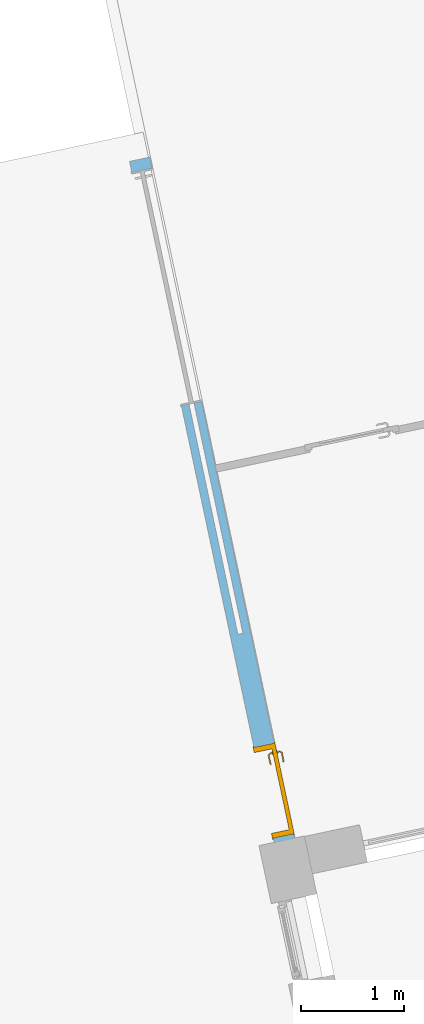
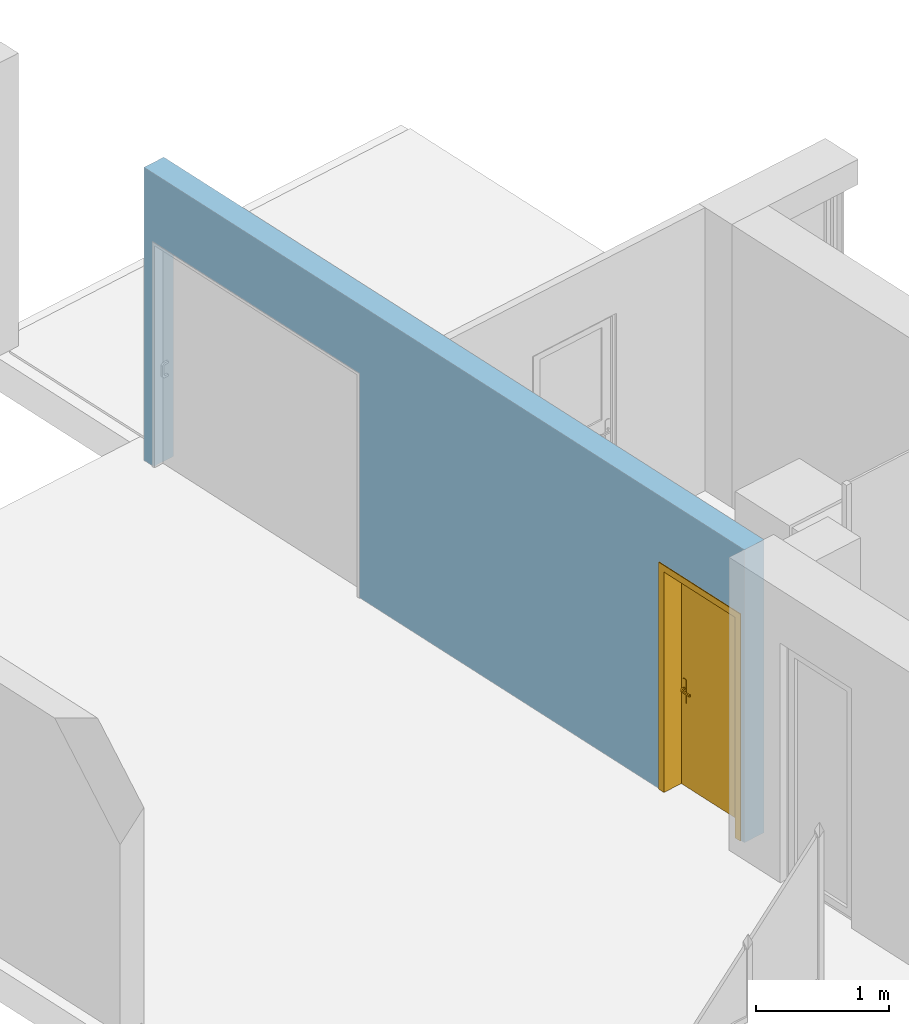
# One storey, part 8 of 17: 1 door, 5 openings, plus 1 element that does not belong to this part.
"""IFC2X3 building model written with IfcOpenShell, lengths in centimetres."""

import ifcopenshell
import ifcopenshell.guid

model = None  # the IFC model being written
_history = None  # IfcOwnerHistory: only IFC2X3 demands one
_inside = {}  # id of a spatial element -> (the spatial element, [elements in it])
_under = {}  # id of a project, library or spatial element -> (it, [spatial elements below it])
_declared = {}  # id of a project -> (the project, [libraries it declares])
_typed = {}  # id of a type object -> (the type object, [elements of that type])
_made_of = {}  # id of a material, layer set ... -> (it, [elements and type objects made of it])


def new_model(schema):
    """Start an empty IFC model of exactly this schema.

    Asked for "IFC4X3", IfcOpenShell would pick the latest addendum, in which some entities
    have other attributes; the version numbers below select the first issue.
    IFC2X3 requires an IfcOwnerHistory on every rooted entity: one is made here for all.
    """
    global model, _history
    if schema == "IFC4X3":
        model = ifcopenshell.file(schema_version=(4, 3, 0, 0))
    else:
        model = ifcopenshell.file(schema=schema)
    _inside.clear()
    _under.clear()
    _declared.clear()
    _typed.clear()
    _made_of.clear()
    _history = None
    if model.schema == "IFC2X3":
        org = make("IfcOrganization", Name="unknown")
        user = make(
            "IfcPersonAndOrganization",
            ThePerson=make("IfcPerson", FamilyName="unknown"),
            TheOrganization=org,
        )
        app = make(
            "IfcApplication",
            ApplicationDeveloper=org,
            Version="unknown",
            ApplicationFullName="unknown",
            ApplicationIdentifier="unknown",
        )
        _history = make(
            "IfcOwnerHistory",
            OwningUser=user,
            OwningApplication=app,
            ChangeAction="ADDED",
            CreationDate=0,
        )
    return model


def make(cls, **values):
    """One entity of the class cls with the attributes given. An attribute that is None is left unset."""
    return model.create_entity(
        cls, **{name: value for name, value in values.items() if value is not None}
    )


def entity(cls, *values):
    """Any entity or typed value of the class cls, its attributes in the order of the schema. None: left unset."""
    e = model.create_entity(cls)
    for i, value in enumerate(values):
        if value is not None:
            e[i] = value
    return e


def rooted(cls, **values):
    """An entity with a GlobalId (a new one), such as an element, a storey or a relation."""
    return make(cls, GlobalId=ifcopenshell.guid.new(), OwnerHistory=_history, **values)


def si_unit(unit_type, name, prefix=None):
    """IfcSIUnit, for example si_unit("LENGTHUNIT", "METRE", prefix="MILLI")."""
    return make("IfcSIUnit", UnitType=unit_type, Prefix=prefix, Name=name)


def converted_unit(unit_type, name, factor, base, dimensions=None, offset=None):
    """IfcConversionBasedUnit, such as the inch: factor (a typed value) times the base unit."""
    return make(
        "IfcConversionBasedUnit"
        if offset is None
        else "IfcConversionBasedUnitWithOffset",
        ConversionOffset=offset,
        Dimensions=None
        if dimensions is None
        else entity("IfcDimensionalExponents", *dimensions),
        UnitType=unit_type,
        Name=name,
        ConversionFactor=make(
            "IfcMeasureWithUnit", ValueComponent=factor, UnitComponent=base
        ),
    )


def derived_unit(unit_type, elements):
    """IfcDerivedUnit: a product of units, each with its exponent."""
    return make(
        "IfcDerivedUnit",
        Elements=[
            make("IfcDerivedUnitElement", Unit=unit, Exponent=power)
            for unit, power in elements
        ],
        UnitType=unit_type,
    )


def assignment(units):
    """IfcUnitAssignment: the units of a project."""
    return None if units is None else make("IfcUnitAssignment", Units=units)


def point(xyz):
    """IfcCartesianPoint."""
    return None if xyz is None else make("IfcCartesianPoint", Coordinates=xyz)


def direction(xyz):
    """IfcDirection."""
    return None if xyz is None else make("IfcDirection", DirectionRatios=xyz)


def frame(location, z_axis=None, x_axis=None):
    """IfcAxis2Placement3D, a coordinate frame: its origin and axes. An axis left out is left unset."""
    return make(
        "IfcAxis2Placement3D",
        Location=point(location),
        Axis=direction(z_axis),
        RefDirection=direction(x_axis),
    )


def frame_2d(location, x_axis=None):
    """IfcAxis2Placement2D, a coordinate frame in the plane: its origin and x axis."""
    return make(
        "IfcAxis2Placement2D", Location=point(location), RefDirection=direction(x_axis)
    )


def origin():
    """The frame at (0, 0, 0) with its axes left unset."""
    return frame((0.0, 0.0, 0.0))


def place(relative_to, where):
    """IfcLocalPlacement: puts the frame where relative to a parent placement (None: the world)."""
    return make(
        "IfcLocalPlacement", PlacementRelTo=relative_to, RelativePlacement=where
    )


def context(
    kind, dimensions, precision=None, world=None, true_north=None, identifier=None
):
    """IfcGeometricRepresentationContext, for example the 3D "Model" context."""
    return make(
        "IfcGeometricRepresentationContext",
        ContextIdentifier=identifier,
        ContextType=kind,
        CoordinateSpaceDimension=dimensions,
        Precision=precision,
        WorldCoordinateSystem=world,
        TrueNorth=true_north,
    )


def subcontext(parent, identifier, kind, view, scale=None):
    """IfcGeometricRepresentationSubContext, for example "Body" below "Model"."""
    return make(
        "IfcGeometricRepresentationSubContext",
        ContextIdentifier=identifier,
        ContextType=kind,
        ParentContext=parent,
        TargetScale=scale,
        TargetView=view,
    )


def project(units=None, contexts=None):
    """IfcProject with its units and contexts."""
    return rooted(
        "IfcProject",
        Name="project",
        RepresentationContexts=contexts,
        UnitsInContext=assignment(units),
    )


def spatial(cls, under=None, at=None, **own):
    """A site, building, storey or space (cls), placed at a placement, below another one or the project."""
    s = rooted(cls, ObjectPlacement=at, **own)
    if under is not None:
        _under.setdefault(under.id(), (under, []))[1].append(s)
    return s


def profile(cls, at=None, kind="AREA", **sizes):
    """A parametric profile (cls). Its sizes go by their IFC names, for example OverallWidth=200.0."""
    return make(cls, ProfileType=kind, Position=at, **sizes)


def rectangle(**sizes):
    """IfcRectangleProfileDef."""
    return profile("IfcRectangleProfileDef", **sizes)


def extrude(swept, where, along, depth):
    """IfcExtrudedAreaSolid: the profile swept, set in the frame where, extruded along a direction by depth."""
    return make(
        "IfcExtrudedAreaSolid",
        SweptArea=swept,
        Position=where,
        ExtrudedDirection=direction(along),
        Depth=depth,
    )


def faces_of(points, faces, orient=None, outer=None):
    """IfcFace entities. A face is a list of loops; a loop is a list of indices into points, from 0.

    orient and outer hold one flag for each loop. By default every Orientation is true, the
    first loop of a face is its IfcFaceOuterBound and the others are IfcFaceBound.
    """
    made = []
    for i, loops in enumerate(faces):
        bounds = []
        for j, loop in enumerate(loops):
            is_outer = j == 0 if outer is None else outer[i][j]
            bounds.append(
                make(
                    "IfcFaceOuterBound" if is_outer else "IfcFaceBound",
                    Bound=make("IfcPolyLoop", Polygon=[points[k] for k in loop]),
                    Orientation=True if orient is None else orient[i][j],
                )
            )
        made.append(make("IfcFace", Bounds=bounds))
    return made


def faceted_brep(points, faces, orient=None, outer=None, voids=None):
    """IfcFacetedBrep: a solid bounded by flat faces; with voids (closed shells), ...WithVoids."""
    shared = [point(p) for p in points]
    hull = make("IfcClosedShell", CfsFaces=faces_of(shared, faces, orient, outer))
    if voids is None:
        return make("IfcFacetedBrep", Outer=hull)
    return make(
        "IfcFacetedBrepWithVoids",
        Outer=hull,
        Voids=[
            make(cls, CfsFaces=faces_of(shared, fs, o, b)) for cls, fs, o, b in voids
        ],
    )


def shape(context_of_items, identifier, shape_type, items):
    """IfcShapeRepresentation: the items that make up one representation, for example the "Body"."""
    return make(
        "IfcShapeRepresentation",
        ContextOfItems=context_of_items,
        RepresentationIdentifier=identifier,
        RepresentationType=shape_type,
        Items=items,
    )


def source(mapping_origin, context_of_items, identifier, shape_type, items):
    """IfcRepresentationMap: a shape defined once, which mapped items show again and again."""
    return make(
        "IfcRepresentationMap",
        MappingOrigin=mapping_origin,
        MappedRepresentation=shape(context_of_items, identifier, shape_type, items),
    )


def transform(
    local_origin,
    x_axis=None,
    y_axis=None,
    z_axis=None,
    scale=None,
    scale2=None,
    scale3=None,
    uniform=True,
):
    """IfcCartesianTransformationOperator3D, or its non-uniform kind. x_axis, y_axis, z_axis: its Axis1, 2, 3."""
    if uniform:
        return make(
            "IfcCartesianTransformationOperator3D",
            Axis1=direction(x_axis),
            Axis2=direction(y_axis),
            LocalOrigin=point(local_origin),
            Scale=scale,
            Axis3=direction(z_axis),
        )
    return make(
        "IfcCartesianTransformationOperator3DnonUniform",
        Axis1=direction(x_axis),
        Axis2=direction(y_axis),
        LocalOrigin=point(local_origin),
        Scale=scale,
        Axis3=direction(z_axis),
        Scale2=scale2,
        Scale3=scale3,
    )


def mapped(mapping_source, mapping_target):
    """IfcMappedItem: shows the shape of a source again, moved by a transform."""
    return make(
        "IfcMappedItem", MappingSource=mapping_source, MappingTarget=mapping_target
    )


def material(Name=None, Category=None):
    """IfcMaterial."""
    return make("IfcMaterial", Name=Name, Category=Category)


def layer(
    of_material, thickness, ventilated=None, Name=None, Category=None, Priority=None
):
    """IfcMaterialLayer: one layer of a wall or slab, of a material (None: an air gap)."""
    return make(
        "IfcMaterialLayer",
        Material=of_material,
        LayerThickness=thickness,
        IsVentilated=ventilated,
        Name=Name,
        Category=Category,
        Priority=Priority,
    )


def layer_set(layers, Name=None):
    """IfcMaterialLayerSet."""
    return make("IfcMaterialLayerSet", MaterialLayers=layers, LayerSetName=Name)


def layer_usage(for_layer_set, set_direction, sense, offset, extent=None):
    """IfcMaterialLayerSetUsage: how a layer set lies in its element."""
    return make(
        "IfcMaterialLayerSetUsage",
        ForLayerSet=for_layer_set,
        LayerSetDirection=set_direction,
        DirectionSense=sense,
        OffsetFromReferenceLine=offset,
        ReferenceExtent=extent,
    )


def made_of(thing, what):
    """Note that an element or type object is made of a material, layer set ...; save() writes the relation."""
    if what is not None:
        _made_of.setdefault(what.id(), (what, []))[1].append(thing)
    return thing


def type_object(cls, material=None, **own):
    """A type object (cls), such as IfcWallType, which elements share."""
    return made_of(rooted(cls, **own), material)


def type_shapes(of_type, sources):
    """Give a type object the sources (RepresentationMaps) that its elements show as mapped items."""
    of_type.RepresentationMaps = sources


def element(
    cls,
    number,
    at=None,
    inside=None,
    cuts=None,
    type_object=None,
    material=None,
    context=None,
    identifier="Body",
    shape_type=None,
    held_by="IfcProductDefinitionShape",
    body=None,
    shapes=None,
    **own,
):
    """One element of the class cls, such as IfcWall. Its Tag is "e" and its number.

    at: its placement. inside: the storey or other place that contains it. cuts: it is an
    opening in that element (IfcRelVoidsElement). A single representation is given by context,
    identifier, shape_type and body (its items); several are given by shapes. held_by: the class
    of the entity that holds the representations. save() writes the other relations.
    """
    e = rooted(cls, Tag="e%d" % number, ObjectPlacement=at, **own)
    if body is not None:
        shapes = [shape(context, identifier, shape_type, body)]
    if shapes is not None:
        e.Representation = make(held_by, Representations=shapes)
    if inside is not None:
        _inside.setdefault(inside.id(), (inside, []))[1].append(e)
    if cuts is not None:
        rooted(
            "IfcRelVoidsElement", RelatingBuildingElement=cuts, RelatedOpeningElement=e
        )
    if type_object is not None:
        _typed.setdefault(type_object.id(), (type_object, []))[1].append(e)
    return made_of(e, material)


def fill(opening, filler):
    """IfcRelFillsElement: the door or window that sits in an opening."""
    return rooted(
        "IfcRelFillsElement",
        RelatingOpeningElement=opening,
        RelatedBuildingElement=filler,
    )


def aggregate(whole, parts):
    """IfcRelAggregates: a whole, such as a stair, and the parts it consists of."""
    return rooted("IfcRelAggregates", RelatingObject=whole, RelatedObjects=parts)


def save(model, path):
    """Write the relations noted so far, then the file.

    IfcRelAggregates (storeys below a building ...), IfcRelContainedInSpatialStructure (elements
    in a storey), IfcRelDefinesByType, IfcRelAssociatesMaterial and IfcRelDeclares: one each for
    every whole, place, type object, material and project.
    """
    for whole, parts in _under.values():
        aggregate(whole, parts)
    for where, things in _inside.values():
        rooted(
            "IfcRelContainedInSpatialStructure",
            RelatedElements=things,
            RelatingStructure=where,
        )
    for kind, things in _typed.values():
        rooted("IfcRelDefinesByType", RelatedObjects=things, RelatingType=kind)
    for what, things in _made_of.values():
        rooted("IfcRelAssociatesMaterial", RelatedObjects=things, RelatingMaterial=what)
    for by, libraries in _declared.values():
        rooted("IfcRelDeclares", RelatingContext=by, RelatedDefinitions=libraries)
    model.write(path)


model = new_model("IFC2X3")

# Units and contexts
model_context = context("Model", 3, precision=0.001, world=origin(), true_north=direction((6.12303176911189e-17, 1.0)))
body_context = subcontext(model_context, "Body", "Model", "MODEL_VIEW")
ifc_project = project(units=[si_unit("LENGTHUNIT", "METRE", prefix="CENTI"), si_unit("AREAUNIT", "SQUARE_METRE"), si_unit("VOLUMEUNIT", "CUBIC_METRE"), converted_unit("PLANEANGLEUNIT", "DEGREE", entity("IfcRatioMeasure", 0.0174532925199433), si_unit("PLANEANGLEUNIT", "RADIAN"), dimensions=[0, 0, 0, 0, 0, 0, 0]), si_unit("MASSUNIT", "GRAM", prefix="KILO"), derived_unit("MASSDENSITYUNIT", [(si_unit("MASSUNIT", "GRAM", prefix="KILO"), 1), (si_unit("LENGTHUNIT", "METRE"), -3)]), derived_unit("IONCONCENTRATIONUNIT", [(si_unit("MASSUNIT", "GRAM", prefix="KILO"), 1), (si_unit("LENGTHUNIT", "METRE"), -3)]), derived_unit("MOMENTOFINERTIAUNIT", [(si_unit("LENGTHUNIT", "METRE"), 4)]), si_unit("TIMEUNIT", "SECOND"), si_unit("FREQUENCYUNIT", "HERTZ"), si_unit("THERMODYNAMICTEMPERATUREUNIT", "DEGREE_CELSIUS"), derived_unit("THERMALTRANSMITTANCEUNIT", [(si_unit("MASSUNIT", "GRAM", prefix="KILO"), 1), (si_unit("THERMODYNAMICTEMPERATUREUNIT", "KELVIN"), -1), (si_unit("TIMEUNIT", "SECOND"), -3)]), derived_unit("THERMALCONDUCTANCEUNIT", [(si_unit("MASSUNIT", "GRAM", prefix="KILO"), 1), (si_unit("THERMODYNAMICTEMPERATUREUNIT", "KELVIN"), -1), (si_unit("TIMEUNIT", "SECOND"), -3), (si_unit("LENGTHUNIT", "METRE"), 1)]), derived_unit("VOLUMETRICFLOWRATEUNIT", [(si_unit("LENGTHUNIT", "METRE"), 3), (si_unit("TIMEUNIT", "SECOND"), -1)]), derived_unit("MASSFLOWRATEUNIT", [(si_unit("MASSUNIT", "GRAM", prefix="KILO"), 1), (si_unit("TIMEUNIT", "SECOND"), -1)]), derived_unit("ROTATIONALFREQUENCYUNIT", [(si_unit("TIMEUNIT", "SECOND"), -1)]), si_unit("ELECTRICCURRENTUNIT", "AMPERE"), si_unit("ELECTRICVOLTAGEUNIT", "VOLT"), si_unit("POWERUNIT", "WATT"), si_unit("FORCEUNIT", "NEWTON", prefix="KILO"), si_unit("ILLUMINANCEUNIT", "LUX"), si_unit("LUMINOUSFLUXUNIT", "LUMEN"), si_unit("LUMINOUSINTENSITYUNIT", "CANDELA"), derived_unit("USERDEFINED", [(si_unit("MASSUNIT", "GRAM", prefix="KILO"), -1), (si_unit("LENGTHUNIT", "METRE"), -2), (si_unit("TIMEUNIT", "SECOND"), 3), (si_unit("LUMINOUSFLUXUNIT", "LUMEN"), 1)]), derived_unit("USERDEFINED", [(si_unit("MASSUNIT", "GRAM", prefix="KILO"), 1), (si_unit("TIMEUNIT", "SECOND"), -3), (si_unit("LENGTHUNIT", "METRE"), 3), (si_unit("ELECTRICCURRENTUNIT", "AMPERE"), -2)]), derived_unit("SOUNDPOWERUNIT", [(si_unit("MASSUNIT", "GRAM", prefix="KILO"), 1), (si_unit("TIMEUNIT", "SECOND"), -3), (si_unit("LENGTHUNIT", "METRE"), 2)]), derived_unit("SOUNDPRESSUREUNIT", [(si_unit("MASSUNIT", "GRAM", prefix="KILO"), 1), (si_unit("LENGTHUNIT", "METRE"), -1), (si_unit("TIMEUNIT", "SECOND"), -2)]), derived_unit("LINEARVELOCITYUNIT", [(si_unit("LENGTHUNIT", "METRE"), 1), (si_unit("TIMEUNIT", "SECOND"), -1)]), si_unit("PRESSUREUNIT", "PASCAL"), derived_unit("USERDEFINED", [(si_unit("MASSUNIT", "GRAM", prefix="KILO"), 1), (si_unit("LENGTHUNIT", "METRE"), -2), (si_unit("TIMEUNIT", "SECOND"), -2)]), derived_unit("LINEARFORCEUNIT", [(si_unit("MASSUNIT", "GRAM", prefix="KILO"), 1), (si_unit("TIMEUNIT", "SECOND"), -2)]), derived_unit("PLANARFORCEUNIT", [(si_unit("MASSUNIT", "GRAM", prefix="KILO"), 1), (si_unit("LENGTHUNIT", "METRE"), -1), (si_unit("TIMEUNIT", "SECOND"), -2)]), derived_unit("SPECIFICHEATCAPACITYUNIT", [(si_unit("THERMODYNAMICTEMPERATUREUNIT", "KELVIN"), -1), (si_unit("LENGTHUNIT", "METRE"), 2), (si_unit("TIMEUNIT", "SECOND"), -2)]), derived_unit("HEATINGVALUEUNIT", [(si_unit("LENGTHUNIT", "METRE"), 2), (si_unit("TIMEUNIT", "SECOND"), -2)]), derived_unit("VAPORPERMEABILITYUNIT", [(si_unit("LENGTHUNIT", "METRE"), -1), (si_unit("TIMEUNIT", "SECOND"), 1)]), derived_unit("DYNAMICVISCOSITYUNIT", [(si_unit("MASSUNIT", "GRAM", prefix="KILO"), 1), (si_unit("TIMEUNIT", "SECOND"), -1), (si_unit("LENGTHUNIT", "METRE"), -1)]), derived_unit("THERMALEXPANSIONCOEFFICIENTUNIT", [(si_unit("THERMODYNAMICTEMPERATUREUNIT", "KELVIN"), -1)]), derived_unit("MODULUSOFELASTICITYUNIT", [(si_unit("MASSUNIT", "GRAM", prefix="KILO"), 1), (si_unit("LENGTHUNIT", "METRE"), -1), (si_unit("TIMEUNIT", "SECOND"), -2)]), derived_unit("ISOTHERMALMOISTURECAPACITYUNIT", [(si_unit("LENGTHUNIT", "METRE"), 3), (si_unit("MASSUNIT", "GRAM", prefix="KILO"), -1)]), derived_unit("MOISTUREDIFFUSIVITYUNIT", [(si_unit("TIMEUNIT", "SECOND"), -1), (si_unit("LENGTHUNIT", "METRE"), 2)])], contexts=[model_context])

# Site, building, storey
site_placement = place(None, frame((14083.8920177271, -6853.25409548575, 6900.0), z_axis=(0.0, 0.0, 1.0), x_axis=(0.978188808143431, 0.207717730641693, 0.0)))
site = spatial("IfcSite", under=ifc_project, at=site_placement, Name="Surface", CompositionType="ELEMENT")
building_placement = place(site_placement, origin())
building = spatial("IfcBuilding", under=site, at=building_placement, CompositionType="ELEMENT")
storey_placement = place(building_placement, origin())
storey = spatial("IfcBuildingStorey", under=building, at=storey_placement, Name="_Rez de chaussée Séjour", CompositionType="ELEMENT", Elevation=2.07727662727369e-10)

# Wall, openings, door
ifc_material_1 = material(Name="Béton, précoulé")
ifc_layer = layer(ifc_material_1, 20.0)
ifc_layer_set = layer_set([ifc_layer], Name="Mur de base:*BETON 20")
ifc_layer_usage = layer_usage(ifc_layer_set, "AXIS2", "NEGATIVE", 10.0)
wall_type = type_object("IfcWallType", Name="Mur de base:*BETON 20", PredefinedType="STANDARD", material=ifc_layer_set)
wall_placement = place(storey_placement, frame((-6264.81321908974, 15502.6324526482, 0.0), z_axis=(0.0, 0.0, 1.0), x_axis=(0.0, -1.0, 0.0)))
wall = element("IfcWallStandardCase", 1, at=wall_placement, inside=storey, type_object=wall_type, material=ifc_layer_usage, Name="Mur de base:*BETON 20", ObjectType="Mur de base:*BETON 20", context=body_context, shape_type="SweptSolid", body=[
    extrude(rectangle(XDim=674.965107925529, YDim=20.0000000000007, at=frame_2d((337.482553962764, -6.21724893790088e-14), x_axis=(-1.0, 0.0))), origin(), (0.0, 0.0, 1.0), 268.999999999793),
])
opening_1_placement = place(wall_placement, origin())
element("IfcOpeningElement", 2, at=opening_1_placement, cuts=wall, Name="Mur de base:*BETON 20", ObjectType="Opening", context=body_context, shape_type="SweptSolid", body=[
    extrude(rectangle(XDim=220.0, YDim=109.999999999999, at=frame_2d((-1.73372427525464e-12, 7.105427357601e-15), x_axis=(0.0, 1.0))), frame((-119.534892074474, -127.4, 110.0), z_axis=(0.0, 1.0, 0.0), x_axis=(-1.0, 0.0, 0.0)), (0.0, 0.0, 1.0), 304.8),
])
opening_2_placement = place(wall_placement, origin())
element("IfcOpeningElement", 3, at=opening_2_placement, cuts=wall, Name="Mur de base:*BETON 20", ObjectType="Opening", context=body_context, shape_type="SweptSolid", body=[
    extrude(rectangle(XDim=220.0, YDim=49.999999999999, at=frame_2d((0.0, -1.73372427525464e-12), x_axis=(1.0, 0.0))), frame((-199.53489207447, -33.0, 110.0), z_axis=(0.0, 1.0, 0.0), x_axis=(0.0, 0.0, -1.0)), (0.0, 0.0, 1.0), 57.9999999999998),
])
opening_3_placement = place(wall_placement, frame((-147.034892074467, 20.0, -7.9639104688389)))
element("IfcOpeningElement", 4, at=opening_3_placement, cuts=wall, Name="Mur de base:*BETON 20", ObjectType="Opening", context=body_context, shape_type="Brep", body=[
    faceted_brep([(-38.5000000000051, 305.0, 7.96391046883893), (-38.5000000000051, 305.0, 6.46391046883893), (-100.0, 305.0, 0.0), (-100.0, 305.0, 227.963910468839), (-40.5000000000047, 305.0, 227.963910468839), (-40.5000000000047, 305.0, 7.96391046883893), (0.0, 5.0, 7.96391046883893), (0.0, 5.0, 227.963910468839), (-27.5000000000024, 5.0, 227.963910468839), (-27.5000000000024, 5.0, 7.96391046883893), (0.0, 305.0, 7.96391046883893), (-27.5000000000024, 0.0, 7.96391046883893), (-34.5000000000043, 0.0, 7.96391046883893), (-34.5000000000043, 4.0, 7.96391046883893), (-40.5000000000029, 4.0, 7.96391046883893), (-40.5000000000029, 5.0, 7.96391046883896), (-38.5000000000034, 5.0, 7.96391046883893), (-40.5000000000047, 306.0, 7.96391046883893), (-34.500000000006, 306.0, 7.96391046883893), (-34.500000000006, 310.0, 7.96391046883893), (-27.5000000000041, 310.0, 7.96391046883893), (-27.5000000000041, 305.0, 7.96391046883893), (0.0, 305.0, 227.963910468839), (-27.5000000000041, 305.0, 227.963910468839), (-100.0, 5.0, 0.0), (-100.0, 5.0, 227.963910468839), (-38.5000000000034, 5.0, 6.46391046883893), (-34.5000000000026, 310.0, 232.96391046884), (-27.5000000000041, 310.0, 232.96391046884), (-34.5000000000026, 306.0, 228.963910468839), (-34.5000000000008, 4.0, 228.963910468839), (-34.5000000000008, 0.0, 232.96391046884), (-40.5000000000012, 306.0, 228.963910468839), (-40.5000000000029, 5.0, 227.963910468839), (-40.5000000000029, 4.0, 228.963910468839), (-27.5000000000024, 0.0, 232.96391046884)], [[[0, 1, 2, 3, 4, 5]], [[6, 7, 8, 9]], [[10, 6, 9, 11, 12, 13, 14, 15, 16, 0, 5, 17, 18, 19, 20, 21]], [[10, 22, 7, 6]], [[7, 22, 23, 8]], [[3, 2, 24, 25]], [[2, 1, 26, 24]], [[1, 0, 16, 26]], [[20, 19, 27, 28]], [[19, 18, 29, 30, 13, 12, 31, 27]], [[18, 17, 32, 29]], [[17, 5, 4, 33, 15, 14, 34, 32]], [[21, 20, 28, 35, 11, 9, 8, 23]], [[28, 27, 31, 35]], [[30, 29, 32, 34]], [[31, 12, 11, 35]], [[13, 30, 34, 14]], [[3, 25, 33, 4]], [[25, 24, 26, 16, 15, 33]], [[22, 10, 21, 23]]]),
])
opening_4_placement = place(wall_placement, frame((470.0, -25.0, 0.0), z_axis=(0.0, 0.0, 1.0), x_axis=(0.0, 1.0, 0.0)))
element("IfcOpeningElement", 5, at=opening_4_placement, cuts=wall, Name="Mur de base:*BETON 20", ObjectType="Opening", context=body_context, shape_type="Brep", body=[
    faceted_brep([(50.0, 228.0, 205.5), (50.0, 459.0, 205.5), (0.0, 459.0, 205.5), (0.0, 228.0, 205.5), (22.5000000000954, 228.0, 205.5), (22.5000000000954, 0.0, 205.5), (27.5000000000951, 0.0, 205.5), (27.5000000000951, 228.0, 205.5), (50.0, 228.0, 0.0), (27.5000000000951, 228.0, 0.0), (27.5000000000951, 0.0, 0.0), (22.5000000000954, 0.0, 0.0), (22.5000000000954, 228.0, 0.0), (0.0, 228.0, 0.0), (0.0, 459.0, 0.0), (50.0, 459.0, 0.0)], [[[0, 1, 2, 3, 4, 5, 6, 7]], [[8, 9, 10, 11, 12, 13, 14, 15]], [[1, 0, 8, 15]], [[2, 1, 15, 14]], [[3, 2, 14, 13]], [[4, 3, 13, 12]], [[5, 4, 12, 11]], [[6, 5, 11, 10]], [[7, 6, 10, 9]], [[0, 7, 9, 8]]]),
])
opening_5_placement = place(wall_placement, frame((580.459974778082, -10.0, 0.0)))
opening_5 = element("IfcOpeningElement", 6, at=opening_5_placement, cuts=wall, Name="*Porte_alveolaire:Pp 83 x 204:1", ObjectType="Opening", context=body_context, shape_type="SweptSolid", body=[
    extrude(rectangle(XDim=207.5, YDim=89.9999999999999, at=frame_2d((103.75, 45.0), x_axis=(1.0, 0.0))), frame((0.0, 0.0, 0.0), z_axis=(0.0, 1.0, 0.0), x_axis=(0.0, 0.0, 1.0)), (0.0, 0.0, 1.0), 20.0),
])
ifc_material_2 = material(Name="<Unnamed>")
door_style = type_object("IfcDoorStyle", Name="*Porte_alveolaire:Pp 83 x 204", ConstructionType="NOTDEFINED", OperationType="NOTDEFINED", ParameterTakesPrecedence=False, Sizeable=False, material=ifc_material_2)
shared_shape = source(origin(), body_context, "Body", "Brep", [
    faceted_brep([(81.2025298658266, 3.69990393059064, 90.7780440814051), (80.7974701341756, 3.69990393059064, 90.7780440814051), (80.3999999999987, 3.69990393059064, 90.699999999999), (80.3999999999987, 3.69990393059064, 89.300000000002), (80.7974701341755, 3.69990393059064, 89.221955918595), (81.2025298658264, 3.69990393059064, 89.2219559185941), (81.6000000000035, 3.69990393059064, 89.2999999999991), (81.6000000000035, 3.69990393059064, 90.699999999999), (80.3999999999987, 5.94842438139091, 90.699999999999), (80.3999999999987, 5.94842438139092, 89.300000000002), (80.7974701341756, 6.11306190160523, 90.7780440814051), (81.2025298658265, 6.28084313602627, 90.7780440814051), (79.5838906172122, 7.89948238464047, 90.7780440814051), (79.4161093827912, 7.49442265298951, 90.7780440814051), (71.079312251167, 7.49442265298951, 90.7780440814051), (70.911531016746, 7.89948238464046, 90.7780440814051), (70.1451046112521, 7.13305597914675, 90.7780440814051), (70.431525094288, 6.84663549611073, 90.7780440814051), (81.6000000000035, 6.44548065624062, 90.699999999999), (81.6000000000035, 6.44548065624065, 89.2999999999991), (81.2025298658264, 6.28084313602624, 89.2219559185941), (80.7974701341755, 6.1130619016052, 89.221955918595), (79.4161093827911, 7.49442265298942, 89.221955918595), (79.5838906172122, 7.89948238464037, 89.2219559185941), (70.911531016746, 7.89948238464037, 89.221955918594), (71.079312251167, 7.49442265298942, 89.221955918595), (70.4315250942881, 6.84663549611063, 89.221955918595), (70.1451046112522, 7.13305597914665, 89.221955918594), (79.2514718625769, 7.09695251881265, 89.300000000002), (79.2514718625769, 7.09695251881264, 90.699999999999), (79.7485281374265, 8.29695251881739, 90.699999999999), (79.7485281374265, 8.29695251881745, 89.2999999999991), (75.2477108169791, 7.0969525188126, 90.699999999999), (71.2439497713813, 7.09695251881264, 90.699999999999), (71.2439497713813, 7.09695251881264, 89.300000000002), (75.2477108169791, 7.09695251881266, 89.300000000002), (75.247710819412, 7.71239668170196, 90.7878116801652), (74.7399422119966, 8.29695251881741, 90.699999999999), (70.7468934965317, 8.29695251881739, 90.699999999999), (75.7554791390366, 8.29695251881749, 89.2999999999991), (70.7468934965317, 8.29695251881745, 89.2999999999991), (75.2477107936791, 7.71239667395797, 89.2121883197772), (69.8640507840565, 7.41410980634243, 90.699999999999), (69.8640507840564, 7.41410980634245, 89.2999999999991), (70.7125789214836, 6.56558166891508, 89.300000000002), (70.7125789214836, 6.56558166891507, 90.699999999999)], [[[0, 1, 2, 3, 4, 5, 6, 7]], [[8, 9, 3, 2]], [[1, 10, 8, 2]], [[1, 0, 11, 12, 13, 10]], [[14, 15, 16, 17]], [[7, 18, 11, 0]], [[18, 7, 6, 19]], [[6, 5, 20, 19]], [[5, 4, 21, 22, 23, 20]], [[24, 25, 26, 27]], [[4, 3, 9, 21]], [[28, 9, 8, 29]], [[8, 10, 13, 29]], [[18, 30, 12, 11]], [[31, 30, 18, 19]], [[19, 20, 23, 31]], [[21, 9, 28, 22]], [[28, 29, 32, 33, 34, 35]], [[36, 32, 13]], [[37, 38, 15]], [[37, 12, 30]], [[36, 12, 37]], [[14, 32, 36]], [[36, 15, 14]], [[29, 13, 32]], [[32, 14, 33]], [[12, 36, 13]], [[15, 36, 37]], [[30, 31, 39, 40, 38, 37]], [[23, 41, 39]], [[24, 39, 41]], [[39, 31, 23]], [[39, 24, 40]], [[22, 35, 41]], [[41, 23, 22]], [[41, 35, 25]], [[35, 22, 28]], [[34, 25, 35]], [[24, 41, 25]], [[17, 16, 42, 43, 27, 26, 44, 45]], [[44, 34, 33, 45]], [[33, 14, 17, 45]], [[15, 38, 42, 16]], [[42, 38, 40, 43]], [[24, 27, 43, 40]], [[34, 44, 26, 25]]]),
    faceted_brep([(80.7974701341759, -1.30009606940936, 90.7780440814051), (81.2025298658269, -1.30009606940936, 90.7780440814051), (81.6000000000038, -1.30009606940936, 90.6999999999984), (81.6000000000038, -1.30009606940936, 89.2999999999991), (81.2025298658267, -1.30009606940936, 89.221955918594), (80.7974701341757, -1.30009606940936, 89.221955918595), (80.399999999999, -1.30009606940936, 89.3000000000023), (80.3999999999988, -1.30009606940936, 90.699999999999), (81.2025298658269, -3.90055361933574, 90.7780440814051), (81.600000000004, -4.06519113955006, 90.6999999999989), (80.7974701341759, -3.73277238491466, 90.7780440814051), (79.4298602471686, -5.10038227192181, 90.7780440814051), (79.5976414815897, -5.50544200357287, 90.7780440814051), (70.9142453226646, -5.50544200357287, 90.778044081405), (71.0820265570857, -5.10038227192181, 90.778044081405), (70.4342394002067, -4.45259511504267, 90.778044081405), (70.1478189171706, -4.73901559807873, 90.778044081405), (80.3999999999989, -3.56813486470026, 90.699999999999), (80.399999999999, -3.56813486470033, 89.3000000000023), (80.7974701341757, -3.73277238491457, 89.221955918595), (81.2025298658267, -3.90055361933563, 89.221955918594), (79.5976414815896, -5.5054420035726, 89.221955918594), (79.4298602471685, -5.10038227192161, 89.221955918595), (71.0820265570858, -5.10038227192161, 89.221955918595), (70.9142453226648, -5.5054420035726, 89.221955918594), (70.1478189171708, -4.73901559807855, 89.221955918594), (70.4342394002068, -4.45259511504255, 89.221955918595), (81.6000000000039, -4.06519113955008, 89.2999999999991), (79.7622790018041, -5.90291213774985, 90.6999999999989), (79.2652227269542, -4.70291213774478, 90.699999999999), (79.2652227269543, -4.70291213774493, 89.3000000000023), (79.762279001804, -5.90291213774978, 89.2999999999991), (75.2559433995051, -5.31837634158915, 90.7878115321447), (75.7692302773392, -5.90291213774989, 90.6999999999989), (70.7496078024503, -5.90291213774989, 90.6999999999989), (75.2559434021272, -4.70291213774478, 90.699999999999), (71.2466640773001, -4.70291213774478, 90.6999999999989), (75.2559436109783, -4.70291213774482, 89.3000000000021), (71.2466640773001, -4.70291213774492, 89.3000000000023), (75.2559434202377, -5.31837634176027, 89.2121884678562), (74.7426576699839, -5.90291213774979, 89.2999999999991), (70.7496078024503, -5.90291213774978, 89.2999999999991), (70.7152932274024, -4.17154128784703, 89.300000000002), (69.866765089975, -5.02006942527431, 89.2999999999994), (69.8667650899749, -5.02006942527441, 90.6999999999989), (70.7152932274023, -4.1715412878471, 90.6999999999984)], [[[0, 1, 2, 3, 4, 5, 6, 7]], [[2, 1, 8, 9]], [[1, 0, 10, 11, 12, 8]], [[13, 14, 15, 16]], [[0, 7, 17, 10]], [[18, 17, 7, 6]], [[5, 19, 18, 6]], [[5, 4, 20, 21, 22, 19]], [[23, 24, 25, 26]], [[3, 27, 20, 4]], [[9, 27, 3, 2]], [[9, 8, 12, 28]], [[10, 17, 29, 11]], [[30, 29, 17, 18]], [[18, 19, 22, 30]], [[20, 27, 31, 21]], [[28, 31, 27, 9]], [[12, 32, 33]], [[13, 33, 32]], [[33, 28, 12]], [[33, 13, 34]], [[11, 35, 32]], [[32, 12, 11]], [[32, 35, 14]], [[35, 11, 29]], [[36, 14, 35]], [[13, 32, 14]], [[30, 37, 38, 36, 35, 29]], [[39, 37, 22]], [[40, 41, 24]], [[40, 21, 31]], [[39, 21, 40]], [[23, 37, 39]], [[39, 24, 23]], [[30, 22, 37]], [[37, 23, 38]], [[21, 39, 22]], [[24, 39, 40]], [[31, 28, 33, 34, 41, 40]], [[42, 26, 25, 43, 44, 16, 15, 45]], [[13, 16, 44, 34]], [[36, 45, 15, 14]], [[42, 45, 36, 38]], [[38, 23, 26, 42]], [[24, 41, 43, 25]], [[44, 43, 41, 34]]]),
    faceted_brep([(83.0, 3.19990393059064, 77.0), (83.0, 3.19990393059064, 98.0), (82.0352761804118, 3.19990393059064, 98.3996016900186), (81.0, 3.19990393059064, 98.5358983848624), (79.9647238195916, 3.19990393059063, 98.3996016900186), (79.0, 3.19990393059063, 98.0), (79.0, 3.19990393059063, 77.0), (79.9647238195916, 3.19990393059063, 76.6003983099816), (81.0, 3.19990393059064, 76.4641016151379), (82.0352761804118, 3.19990393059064, 76.6003983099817), (81.0, 3.69990393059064, 98.5358983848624), (82.0352761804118, 3.69990393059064, 98.3996016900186), (83.0, 3.69990393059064, 98.0), (83.0, 3.69990393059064, 77.0), (82.0352761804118, 3.69990393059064, 76.6003983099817), (81.0, 3.69990393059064, 76.4641016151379), (79.9647238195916, 3.69990393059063, 76.6003983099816), (79.0, 3.69990393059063, 77.0), (79.0, 3.69990393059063, 98.0), (79.9647238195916, 3.69990393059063, 98.3996016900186)], [[[0, 1, 2, 3, 4, 5, 6, 7, 8, 9]], [[10, 11, 12, 13, 14, 15, 16, 17, 18, 19]], [[4, 19, 18, 5]], [[3, 10, 19, 4]], [[2, 11, 10, 3]], [[2, 1, 12, 11]], [[12, 1, 0, 13]], [[9, 14, 13, 0]], [[8, 15, 14, 9]], [[7, 16, 15, 8]], [[7, 6, 17, 16]], [[17, 6, 5, 18]]]),
    faceted_brep([(81.0, -1.30009606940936, 76.4641016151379), (82.0352761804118, -1.30009606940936, 76.6003983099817), (83.0, -1.30009606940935, 77.0), (83.0, -1.30009606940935, 98.0), (82.0352761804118, -1.30009606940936, 98.3996016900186), (81.0, -1.30009606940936, 98.5358983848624), (79.9647238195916, -1.30009606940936, 98.3996016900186), (79.0, -1.30009606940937, 98.0), (79.0, -1.30009606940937, 77.0), (79.9647238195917, -1.30009606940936, 76.6003983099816), (83.0, -0.800096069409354, 98.0), (83.0, -0.800096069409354, 77.0), (82.0352761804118, -0.800096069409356, 76.6003983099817), (81.0, -0.800096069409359, 76.4641016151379), (79.9647238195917, -0.800096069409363, 76.6003983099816), (79.0, -0.800096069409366, 77.0), (79.0, -0.800096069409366, 98.0), (79.9647238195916, -0.800096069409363, 98.3996016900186), (81.0, -0.800096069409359, 98.5358983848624), (82.0352761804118, -0.800096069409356, 98.3996016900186)], [[[0, 1, 2, 3, 4, 5, 6, 7, 8, 9]], [[10, 11, 12, 13, 14, 15, 16, 17, 18, 19]], [[1, 12, 11, 2]], [[0, 13, 12, 1]], [[9, 14, 13, 0]], [[9, 8, 15, 14]], [[15, 8, 7, 16]], [[6, 17, 16, 7]], [[5, 18, 17, 6]], [[4, 19, 18, 5]], [[4, 3, 10, 19]], [[10, 3, 2, 11]]]),
    faceted_brep([(90.0, -9.60694093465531e-05, 0.0), (91.0, -9.60694093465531e-05, 0.0), (91.0, -0.800096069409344, 0.0), (86.5000000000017, -0.800096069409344, 0.0), (86.5000000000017, 3.19990393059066, 0.0), (85.0, 3.19990393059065, 0.0), (85.0, 20.7999039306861, 0.0), (91.0, 20.7999039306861, 0.0), (91.0, 19.9999039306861, 0.0), (90.0, 19.9999039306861, 0.0), (90.0, 19.9999039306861, 207.5), (90.0, -9.60694093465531e-05, 207.5), (91.0, 19.9999039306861, 208.5), (-1.0, 19.9999039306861, 208.5), (-1.0, 19.9999039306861, 0.0), (0.0, 19.9999039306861, 0.0), (0.0, 19.9999039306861, 207.5), (91.0, 20.7999039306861, 208.5), (85.0, 20.7999039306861, 202.500000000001), (5.0, 20.7999039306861, 202.500000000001), (5.0, 20.7999039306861, 0.0), (-1.0, 20.7999039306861, 0.0), (-1.0, 20.7999039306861, 208.5), (85.0, 3.19990393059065, 202.500000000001), (86.5000000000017, 3.19990393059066, 204.0), (3.50000000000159, 3.19990393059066, 204.0), (3.50000000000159, 3.19990393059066, 0.0), (5.0, 3.19990393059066, 0.0), (5.0, 3.19990393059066, 202.500000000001), (86.5000000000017, -0.800096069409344, 204.0), (91.0, -0.800096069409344, 208.5), (-1.0, -0.800096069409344, 208.5), (-1.0, -0.800096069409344, 0.0), (3.50000000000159, -0.800096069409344, 0.0), (3.50000000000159, -0.800096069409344, 204.0), (91.0, -9.60694093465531e-05, 208.5), (0.0, -9.60694093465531e-05, 207.5), (0.0, -9.60694093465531e-05, 0.0), (-1.0, -9.60694093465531e-05, 0.0), (-1.0, -9.60694093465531e-05, 208.5)], [[[0, 1, 2, 3, 4, 5, 6, 7, 8, 9]], [[9, 10, 11, 0]], [[8, 12, 13, 14, 15, 16, 10, 9]], [[7, 17, 12, 8]], [[6, 18, 19, 20, 21, 22, 17, 7]], [[5, 23, 18, 6]], [[4, 24, 25, 26, 27, 28, 23, 5]], [[3, 29, 24, 4]], [[2, 30, 31, 32, 33, 34, 29, 3]], [[1, 35, 30, 2]], [[0, 11, 36, 37, 38, 39, 35, 1]], [[16, 15, 37, 36]], [[37, 15, 14, 21, 20, 27, 26, 33, 32, 38]], [[22, 21, 14, 13]], [[28, 27, 20, 19]], [[34, 33, 26, 25]], [[39, 38, 32, 31]], [[10, 16, 36, 11]], [[17, 22, 13, 12]], [[23, 28, 19, 18]], [[29, 34, 25, 24]], [[35, 39, 31, 30]]]),
    faceted_brep([(86.5000000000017, -0.800096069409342, 204.0), (3.50000000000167, -0.800096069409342, 204.0), (3.50000000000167, -0.800096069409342, 0.0), (86.5000000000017, -0.800096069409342, 0.0), (86.5000000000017, 3.19990393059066, 204.0), (86.5000000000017, 3.19990393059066, 0.0), (3.50000000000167, 3.19990393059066, 0.0), (3.50000000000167, 3.19990393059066, 204.0)], [[[0, 1, 2, 3]], [[4, 5, 6, 7]], [[3, 5, 4, 0]], [[2, 6, 5, 3]], [[1, 7, 6, 2]], [[0, 4, 7, 1]]]),
])
type_shapes(door_style, [shared_shape])
door_placement = place(opening_5_placement, frame((90.0, 19.9999039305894, 0.0), z_axis=(0.0, 0.0, 1.0), x_axis=(-1.0, 0.0, 0.0)))
door = element("IfcDoor", 7, at=door_placement, inside=storey, type_object=door_style, material=ifc_material_2, Name="*Porte_alveolaire:Pp 83 x 204", ObjectType="*Porte_alveolaire:Pp 83 x 204", OverallHeight=207.5, OverallWidth=90.0000000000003, context=body_context, shape_type="MappedRepresentation", body=[
    mapped(shared_shape, transform((0.0, 0.0, 0.0), scale=1.0)),
])
fill(opening_5, door)

save(model, "model.ifc")
